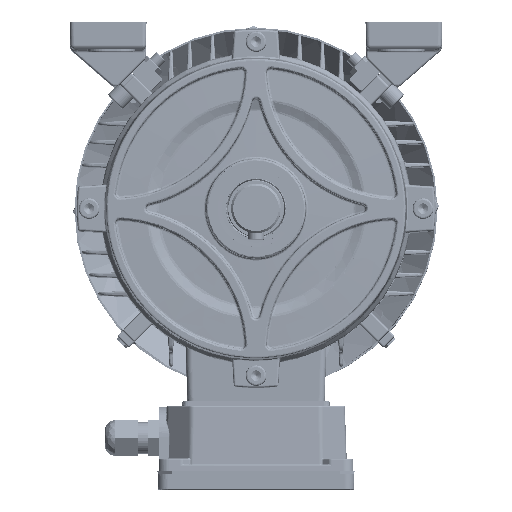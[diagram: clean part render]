
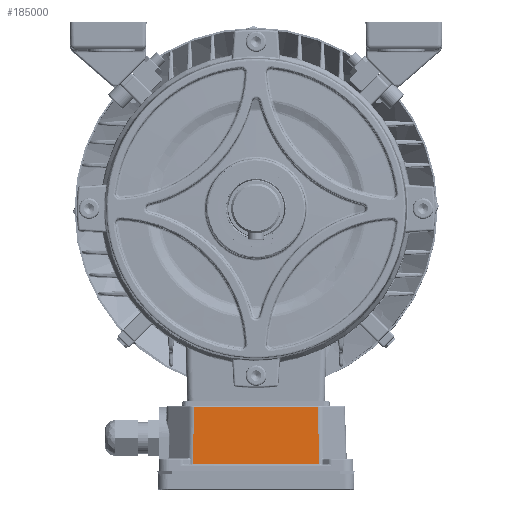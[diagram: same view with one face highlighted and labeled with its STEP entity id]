
A CAD part, top view. The second image highlights one B-rep face of the part: STEP entity #185000.
In plain terms, the highlighted planar face has unit normal (0, 0.035, 0.999) as drawn and (0, 0.035, -0.999) by its records, which use the part's own axes.
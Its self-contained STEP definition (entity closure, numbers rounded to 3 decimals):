
#18645 = EDGE_CURVE ( 'NONE', #130540, #130537, #21679, .T. ) ;
#18678 = EDGE_CURVE ( 'NONE', #130556, #130540, #21716, .T. ) ;
#18679 = EDGE_CURVE ( 'NONE', #130561, #130556, #21742, .T. ) ;
#18680 = EDGE_CURVE ( 'NONE', #130537, #130561, #21744, .T. ) ;
#21679 = LINE ( 'NONE', #25816, #21688 ) ;
#21688 = VECTOR ( 'NONE', #25811, 1000. ) ;
#21716 = LINE ( 'NONE', #26161, #21738 ) ;
#21738 = VECTOR ( 'NONE', #26165, 1000. ) ;
#21742 = LINE ( 'NONE', #26171, #21749 ) ;
#21744 = LINE ( 'NONE', #26153, #21753 ) ;
#21749 = VECTOR ( 'NONE', #26174, 1000. ) ;
#21753 = VECTOR ( 'NONE', #26176, 1000. ) ;
#25811 = DIRECTION ( 'NONE',  ( 1., 0., 0. ) ) ;
#25816 = CARTESIAN_POINT ( 'NONE',  ( 0., -123.017, 97.19 ) ) ;
#26153 = CARTESIAN_POINT ( 'NONE',  ( 30.416, -128.348, 97.004 ) ) ;
#26161 = CARTESIAN_POINT ( 'NONE',  ( -29.944, -95.724, 98.143 ) ) ;
#26165 = DIRECTION ( 'NONE',  ( -0.014, -0.999, -0.035 ) ) ;
#26171 = CARTESIAN_POINT ( 'NONE',  ( 0., -95.724, 98.143 ) ) ;
#26174 = DIRECTION ( 'NONE',  ( -1., 0., 0. ) ) ;
#26176 = DIRECTION ( 'NONE',  ( -0.014, 0.999, 0.035 ) ) ;
#87325 = FACE_OUTER_BOUND ( 'NONE', #172133, .T. ) ;
#130537 = VERTEX_POINT ( 'NONE', #189710 ) ;
#130540 = VERTEX_POINT ( 'NONE', #189716 ) ;
#130556 = VERTEX_POINT ( 'NONE', #189746 ) ;
#130561 = VERTEX_POINT ( 'NONE', #189755 ) ;
#140792 = CARTESIAN_POINT ( 'NONE',  ( 0., -128.43, 97.001 ) ) ;
#140796 = PLANE ( 'NONE',  #154386 ) ;
#140800 = DIRECTION ( 'NONE',  ( 0., -0.035, 0.999 ) ) ;
#140801 = DIRECTION ( 'NONE',  ( 0., -0.999, -0.035 ) ) ;
#154386 = AXIS2_PLACEMENT_3D ( 'NONE', #140792, #140800, #140801 ) ;
#159894 = ORIENTED_EDGE ( 'NONE', *, *, #18678, .F. ) ;
#159897 = ORIENTED_EDGE ( 'NONE', *, *, #18679, .F. ) ;
#159899 = ORIENTED_EDGE ( 'NONE', *, *, #18680, .F. ) ;
#159902 = ORIENTED_EDGE ( 'NONE', *, *, #18645, .F. ) ;
#172133 = EDGE_LOOP ( 'NONE', ( #159894, #159897, #159899, #159902 ) ) ;
#185000 = ADVANCED_FACE ( 'NONE', ( #87325 ), #140796, .F. ) ;
#189710 = CARTESIAN_POINT ( 'NONE',  ( 30.339, -123.017, 97.19 ) ) ;
#189716 = CARTESIAN_POINT ( 'NONE',  ( -30.339, -123.017, 97.19 ) ) ;
#189746 = CARTESIAN_POINT ( 'NONE',  ( -29.944, -95.724, 98.143 ) ) ;
#189755 = CARTESIAN_POINT ( 'NONE',  ( 29.944, -95.724, 98.143 ) ) ;
